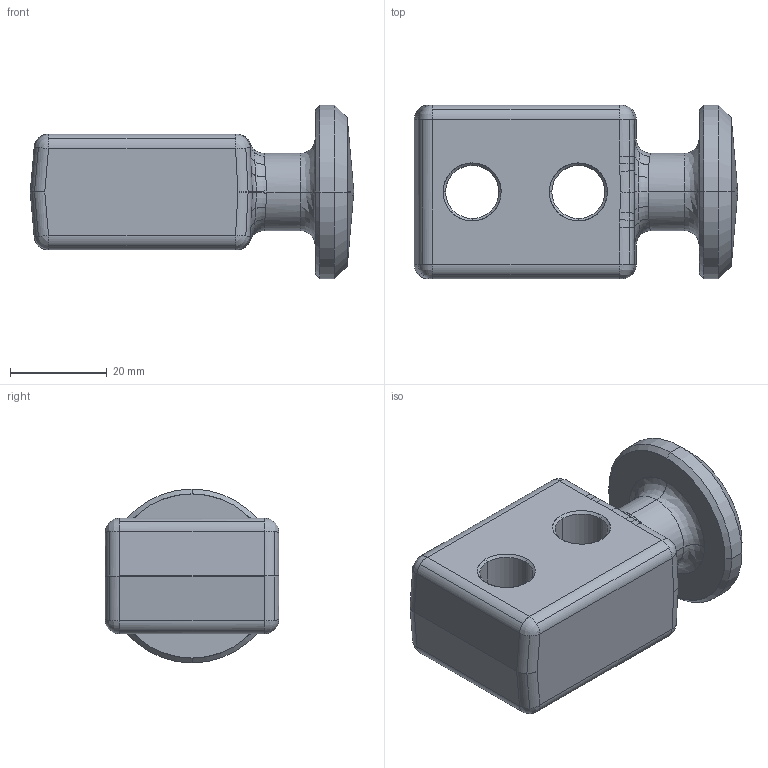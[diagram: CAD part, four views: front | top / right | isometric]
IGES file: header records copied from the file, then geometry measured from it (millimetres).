
Global section: file name: E:\UnigraphicsGraphicData\MISUMI_PRESS-PARTS\IGES\3d_chp16_03551_r00.igs; native system: NX V5.0; preprocessor: UGS NX IGES V5.0; author: MISUMI; date: 20110105.160223; units: millimetre
Bounding box: 67 x 36 x 36 mm (x, y, z)
Surface area: 10497.7 mm2 (no closed solid volume)
Topology: 0 solids, 0 shells, 167 faces, 828 edges, 814 vertices
Faces by surface type: bspline 167
